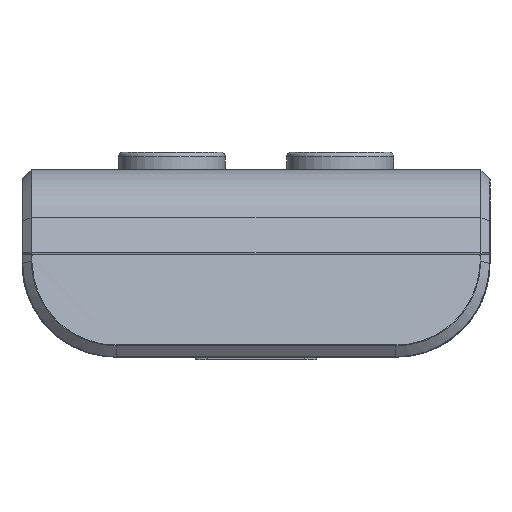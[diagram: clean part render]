
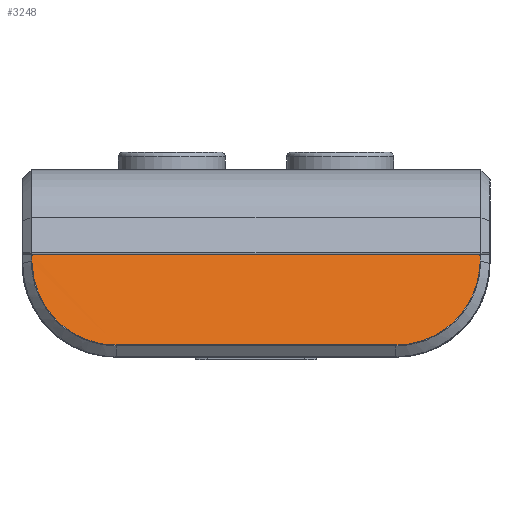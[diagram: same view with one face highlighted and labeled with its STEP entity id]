
A CAD part, front view. The second image highlights one B-rep face of the part: STEP entity #3248.
In plain terms, the highlighted planar face has unit normal (0, -0.966, 0.259).
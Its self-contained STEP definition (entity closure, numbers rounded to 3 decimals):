
#1468 = VERTEX_POINT ( 'NONE', #7544 ) ;
#1482 = VERTEX_POINT ( 'NONE', #7551 ) ;
#1495 = VERTEX_POINT ( 'NONE', #7554 ) ;
#1497 = VERTEX_POINT ( 'NONE', #7555 ) ;
#1498 = VERTEX_POINT ( 'NONE', #7556 ) ;
#1501 = VERTEX_POINT ( 'NONE', #7558 ) ;
#2617 = CARTESIAN_POINT ( 'NONE',  ( 14.95, -56.755, 1.294 ) ) ;
#2618 = DIRECTION ( 'NONE',  ( 1., 0., 0. ) ) ;
#2619 = CARTESIAN_POINT ( 'NONE',  ( -23.956, -54.338, 10.255 ) ) ;
#2642 = CARTESIAN_POINT ( 'NONE',  ( -23.921, -54.352, 10.259 ) ) ;
#2643 = DIRECTION ( 'NONE',  ( 0., -0.259, -0.966 ) ) ;
#2644 = CARTESIAN_POINT ( 'NONE',  ( 14.95, -56.755, 1.294 ) ) ;
#2645 = CARTESIAN_POINT ( 'NONE',  ( -23.923, -54.508, 9.677 ) ) ;
#2646 = CARTESIAN_POINT ( 'NONE',  ( -23.865, -54.662, 9.103 ) ) ;
#2647 = CARTESIAN_POINT ( 'NONE',  ( -23.639, -54.965, 7.971 ) ) ;
#2648 = CARTESIAN_POINT ( 'NONE',  ( -23.469, -55.116, 7.409 ) ) ;
#2649 = CARTESIAN_POINT ( 'NONE',  ( -23.031, -55.402, 6.34 ) ) ;
#2650 = CARTESIAN_POINT ( 'NONE',  ( -22.762, -55.54, 5.827 ) ) ;
#2651 = CARTESIAN_POINT ( 'NONE',  ( -22.282, -55.737, 5.093 ) ) ;
#2652 = CARTESIAN_POINT ( 'NONE',  ( -22.109, -55.8, 4.855 ) ) ;
#2653 = CARTESIAN_POINT ( 'NONE',  ( -21.743, -55.922, 4.4 ) ) ;
#2654 = CARTESIAN_POINT ( 'NONE',  ( -21.549, -55.981, 4.182 ) ) ;
#2655 = CARTESIAN_POINT ( 'NONE',  ( -21.14, -56.092, 3.766 ) ) ;
#2656 = CARTESIAN_POINT ( 'NONE',  ( -20.925, -56.145, 3.568 ) ) ;
#2657 = CARTESIAN_POINT ( 'NONE',  ( -20.473, -56.246, 3.192 ) ) ;
#2658 = CARTESIAN_POINT ( 'NONE',  ( -20.235, -56.294, 3.013 ) ) ;
#2659 = CARTESIAN_POINT ( 'NONE',  ( -19.498, -56.427, 2.515 ) ) ;
#2660 = CARTESIAN_POINT ( 'NONE',  ( -18.979, -56.503, 2.234 ) ) ;
#2661 = CARTESIAN_POINT ( 'NONE',  ( -17.886, -56.626, 1.772 ) ) ;
#2662 = CARTESIAN_POINT ( 'NONE',  ( -17.309, -56.675, 1.592 ) ) ;
#2663 = CARTESIAN_POINT ( 'NONE',  ( -16.145, -56.739, 1.353 ) ) ;
#2664 = CARTESIAN_POINT ( 'NONE',  ( -15.553, -56.755, 1.292 ) ) ;
#2665 = CARTESIAN_POINT ( 'NONE',  ( -14.95, -56.755, 1.294 ) ) ;
#2671 = CARTESIAN_POINT ( 'NONE',  ( 15.553, -56.755, 1.292 ) ) ;
#2672 = CARTESIAN_POINT ( 'NONE',  ( 16.149, -56.739, 1.353 ) ) ;
#2673 = CARTESIAN_POINT ( 'NONE',  ( 17.327, -56.674, 1.596 ) ) ;
#2674 = CARTESIAN_POINT ( 'NONE',  ( 17.894, -56.626, 1.775 ) ) ;
#2675 = CARTESIAN_POINT ( 'NONE',  ( 18.71, -56.533, 2.12 ) ) ;
#2676 = CARTESIAN_POINT ( 'NONE',  ( 18.977, -56.499, 2.249 ) ) ;
#2677 = CARTESIAN_POINT ( 'NONE',  ( 19.499, -56.423, 2.532 ) ) ;
#2678 = CARTESIAN_POINT ( 'NONE',  ( 19.754, -56.381, 2.688 ) ) ;
#2679 = CARTESIAN_POINT ( 'NONE',  ( 20.488, -56.248, 3.185 ) ) ;
#2680 = CARTESIAN_POINT ( 'NONE',  ( 20.937, -56.148, 3.559 ) ) ;
#2681 = CARTESIAN_POINT ( 'NONE',  ( 21.756, -55.924, 4.392 ) ) ;
#2682 = CARTESIAN_POINT ( 'NONE',  ( 22.127, -55.8, 4.856 ) ) ;
#2683 = CARTESIAN_POINT ( 'NONE',  ( 22.763, -55.539, 5.83 ) ) ;
#2684 = CARTESIAN_POINT ( 'NONE',  ( 23.032, -55.402, 6.342 ) ) ;
#2685 = CARTESIAN_POINT ( 'NONE',  ( 23.362, -55.186, 7.148 ) ) ;
#2686 = CARTESIAN_POINT ( 'NONE',  ( 23.46, -55.112, 7.424 ) ) ;
#2687 = CARTESIAN_POINT ( 'NONE',  ( 23.627, -54.963, 7.979 ) ) ;
#2688 = CARTESIAN_POINT ( 'NONE',  ( 23.697, -54.888, 8.258 ) ) ;
#2689 = CARTESIAN_POINT ( 'NONE',  ( 23.865, -54.662, 9.104 ) ) ;
#2690 = CARTESIAN_POINT ( 'NONE',  ( 23.923, -54.508, 9.677 ) ) ;
#2691 = CARTESIAN_POINT ( 'NONE',  ( 23.956, -54.338, 10.255 ) ) ;
#2692 = CARTESIAN_POINT ( 'NONE',  ( 23.921, -54.154, 11. ) ) ;
#2693 = DIRECTION ( 'NONE',  ( 0., 0.259, 0.966 ) ) ;
#3248 = ADVANCED_FACE ( 'NONE', ( #7807 ), #4390, .T. ) ;
#3576 = EDGE_LOOP ( 'NONE', ( #4314, #4312, #4311, #4313, #4316, #4320 ) ) ;
#4311 = ORIENTED_EDGE ( 'NONE', *, *, #8136, .T. ) ;
#4312 = ORIENTED_EDGE ( 'NONE', *, *, #8157, .T. ) ;
#4313 = ORIENTED_EDGE ( 'NONE', *, *, #8152, .T. ) ;
#4314 = ORIENTED_EDGE ( 'NONE', *, *, #8156, .T. ) ;
#4316 = ORIENTED_EDGE ( 'NONE', *, *, #8153, .T. ) ;
#4320 = ORIENTED_EDGE ( 'NONE', *, *, #8150, .T. ) ;
#4385 = CARTESIAN_POINT ( 'NONE',  ( 0., -54.154, 11. ) ) ;
#4390 = PLANE ( 'NONE',  #5289 ) ;
#4395 = DIRECTION ( 'NONE',  ( 0., -0.966, 0.259 ) ) ;
#4396 = DIRECTION ( 'NONE',  ( 0., -0.259, -0.966 ) ) ;
#4973 = CARTESIAN_POINT ( 'NONE',  ( 0., -54.154, 11. ) ) ;
#4980 = DIRECTION ( 'NONE',  ( -1., 0., 0. ) ) ;
#5289 = AXIS2_PLACEMENT_3D ( 'NONE', #4385, #4395, #4396 ) ;
#5299 = B_SPLINE_CURVE_WITH_KNOTS ( 'NONE', 3,
 ( #2619, #2645, #2646, #2647, #2648, #2649, #2650, #2651, #2652, #2653, #2654, #2655, #2656, #2657, #2658, #2659, #2660, #2661, #2662, #2663, #2664, #2665 ),
 .UNSPECIFIED., .F., .F.,
 ( 4, 2, 2, 2, 2, 2, 2, 2, 2, 2, 4 ),
 ( 0., 0.002, 0.004, 0.005, 0.006, 0.007, 0.008, 0.009, 0.011, 0.013, 0.014 ),
 .UNSPECIFIED. ) ;
#5300 = B_SPLINE_CURVE_WITH_KNOTS ( 'NONE', 3,
 ( #2644, #2671, #2672, #2673, #2674, #2675, #2676, #2677, #2678, #2679, #2680, #2681, #2682, #2683, #2684, #2685, #2686, #2687, #2688, #2689, #2690, #2691 ),
 .UNSPECIFIED., .F., .F.,
 ( 4, 2, 2, 2, 2, 2, 2, 2, 2, 2, 4 ),
 ( 0., 0.002, 0.004, 0.004, 0.005, 0.007, 0.009, 0.011, 0.012, 0.013, 0.014 ),
 .UNSPECIFIED. ) ;
#7544 = CARTESIAN_POINT ( 'NONE',  ( -23.921, -54.154, 11. ) ) ;
#7551 = CARTESIAN_POINT ( 'NONE',  ( 23.921, -54.154, 11. ) ) ;
#7554 = CARTESIAN_POINT ( 'NONE',  ( 23.956, -54.338, 10.255 ) ) ;
#7555 = CARTESIAN_POINT ( 'NONE',  ( -23.956, -54.338, 10.255 ) ) ;
#7556 = CARTESIAN_POINT ( 'NONE',  ( 14.95, -56.755, 1.294 ) ) ;
#7558 = CARTESIAN_POINT ( 'NONE',  ( -14.95, -56.755, 1.294 ) ) ;
#7807 = FACE_OUTER_BOUND ( 'NONE', #3576, .T. ) ;
#7988 = VECTOR ( 'NONE', #4980, 1000. ) ;
#7992 = LINE ( 'NONE', #4973, #7988 ) ;
#8000 = LINE ( 'NONE', #2642, #8011 ) ;
#8009 = LINE ( 'NONE', #2617, #8010 ) ;
#8010 = VECTOR ( 'NONE', #2618, 1000. ) ;
#8011 = VECTOR ( 'NONE', #2643, 1000. ) ;
#8012 = VECTOR ( 'NONE', #2693, 1000. ) ;
#8015 = LINE ( 'NONE', #2692, #8012 ) ;
#8136 = EDGE_CURVE ( 'NONE', #1482, #1468, #7992, .T. ) ;
#8150 = EDGE_CURVE ( 'NONE', #1501, #1498, #8009, .T. ) ;
#8152 = EDGE_CURVE ( 'NONE', #1468, #1497, #8000, .T. ) ;
#8153 = EDGE_CURVE ( 'NONE', #1497, #1501, #5299, .T. ) ;
#8156 = EDGE_CURVE ( 'NONE', #1498, #1495, #5300, .T. ) ;
#8157 = EDGE_CURVE ( 'NONE', #1495, #1482, #8015, .T. ) ;
